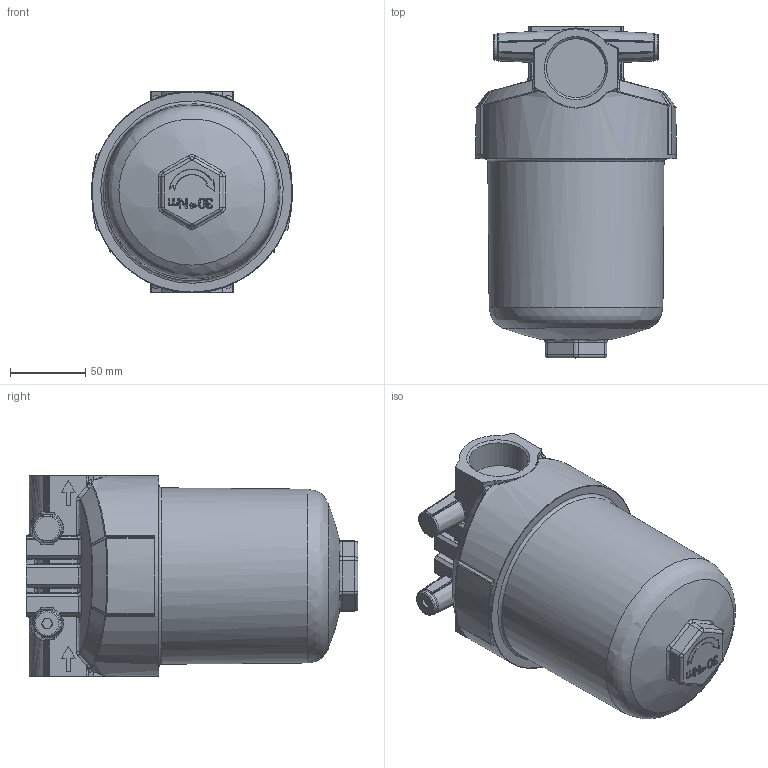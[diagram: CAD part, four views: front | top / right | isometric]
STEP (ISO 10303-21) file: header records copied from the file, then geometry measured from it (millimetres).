
FILE_DESCRIPTION((''),'2;1');
FILE_NAME('U:\Users\I.maeder\28783500(333427).stp', '2014-02-20T10:25:01',('User'),('SDRC'),'I-DEAS Master Series 9','UNIX', 'Yes');
FILE_SCHEMA(('AUTOMOTIVE_DESIGN { 1 0 10303 214 1 1 1 1 }'));
Length unit declared in the file: millimetre
Products named in the file (1): 28783500(333427)
Bounding box: 133 x 220 x 133 mm (x, y, z)
Volume: 2165931.9 mm3; surface area: 115763.5 mm2
Topology: 1 solids, 5 shells, 1284 faces, 3085 edges, 1720 vertices
Faces by surface type: bspline 1284
Entity records: 49647 total; most frequent: CARTESIAN_POINT 32861, ORIENTED_EDGE 5920, EDGE_CURVE 2960, B_SPLINE_CURVE_WITH_KNOTS 1806, VERTEX_POINT 1709, EDGE_LOOP 1307, FACE_OUTER_BOUND 1284, ADVANCED_FACE 1284
